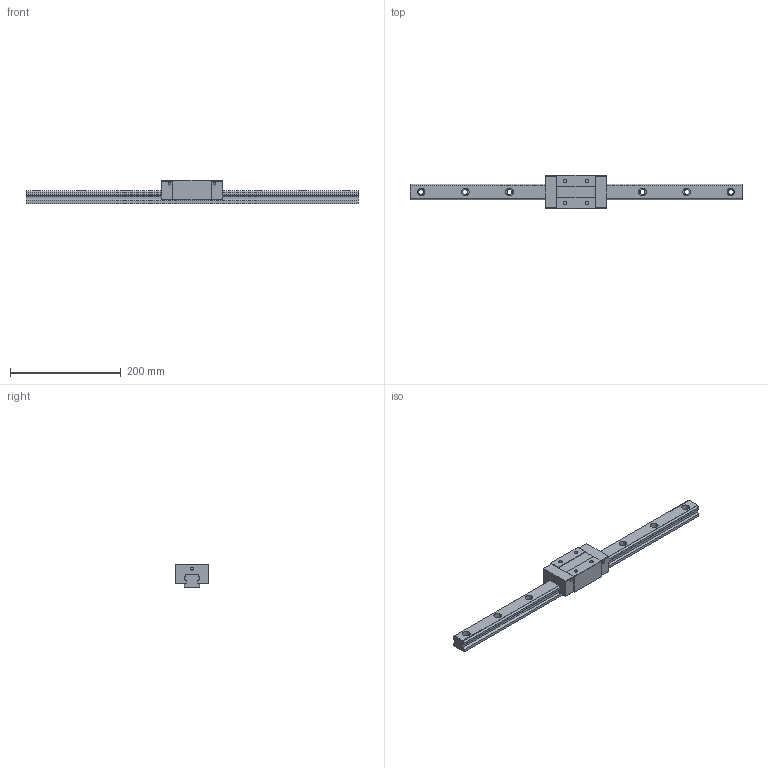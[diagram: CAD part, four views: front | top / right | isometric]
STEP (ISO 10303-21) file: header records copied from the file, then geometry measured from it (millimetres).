
FILE_DESCRIPTION (( 'STEP AP203' ), '1' );
FILE_NAME ('TRS30VN-SZ.STEP', '2024-07-11T08:31:45', ( '' ), ( '' ), 'SwSTEP 2.0', 'SolidWorks 2022', '' );
FILE_SCHEMA (( 'CONFIG_CONTROL_DESIGN' ));
Length unit declared in the file: millimetre
Products named in the file (1): TRS30VN-SZ
Bounding box: 600 x 60 x 42 mm (x, y, z)
Volume: 504057.1 mm3; surface area: 99520.8 mm2
Topology: 2 solids, 2 shells, 178 faces, 464 edges, 308 vertices
Faces by surface type: plane 90, cylinder 88
Entity records: 5619 total; most frequent: DIRECTION 998, CARTESIAN_POINT 951, ORIENTED_EDGE 928, EDGE_CURVE 464, AXIS2_PLACEMENT_3D 355, VERTEX_POINT 308, LINE 288, VECTOR 288
